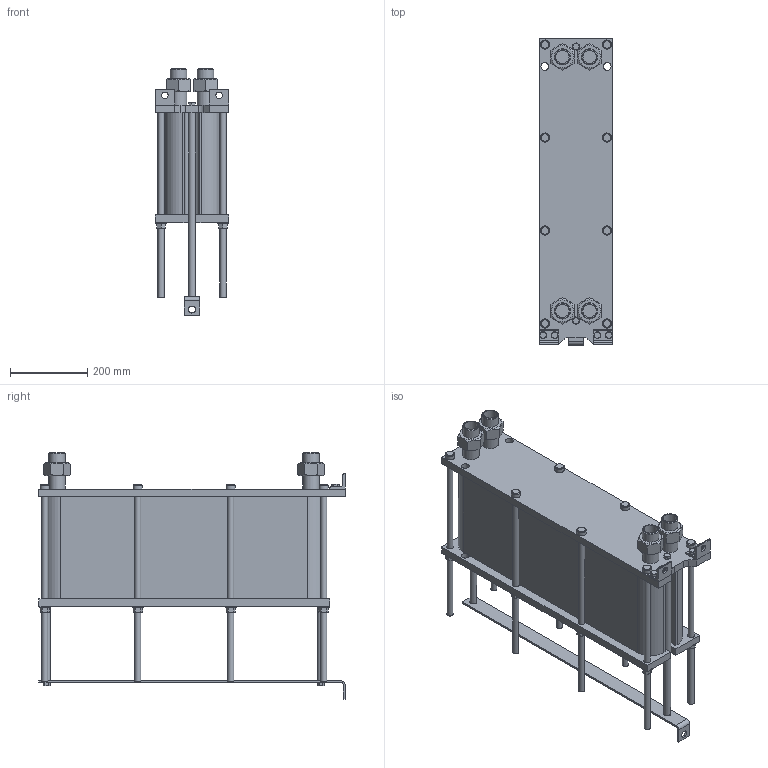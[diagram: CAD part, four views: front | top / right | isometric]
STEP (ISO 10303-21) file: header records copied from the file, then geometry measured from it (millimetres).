
FILE_DESCRIPTION(/* description */ (''),/* implementation_level */ '2;1');
FILE_NAME(/* name */ 'C:\Users\zhuro\Desktop\ENCO\TO\ЭН-008\ЭН-0,5-008-85-1.stp',/* time_stamp */ '2022-06-06T10:53:10+03:00',/* author */ ('zhuro'),/* organization */ (''),/* preprocessor_version */ 'ST-DEVELOPER v18.1',/* originating_system */ 'Autodesk Inventor 2022',/* authorisation */ '');
FILE_SCHEMA (('AUTOMOTIVE_DESIGN { 1 0 10303 214 3 1 1 }'));
Length unit declared in the file: millimetre
Products named in the file (1): ЭН-0,5-008-85-1
Bounding box: 190 x 790 x 637 mm (x, y, z)
Volume: 33767891.7 mm3; surface area: 1894642.3 mm2
Topology: 40 solids, 40 shells, 428 faces, 924 edges, 606 vertices
Faces by surface type: plane 273, cylinder 109, cone 40, torus 6
Full cylindrical faces by diameter (mm): 12 x6, 14 x2, 16 x20, 17 x8, 18 x19, 20 x5, 24 x8, 28 x8, 34.3 x8, 42.3 x8
Entity records: 15843 total; most frequent: CARTESIAN_POINT 5991, DIRECTION 1984, ORIENTED_EDGE 1848, EDGE_CURVE 924, AXIS2_PLACEMENT_3D 715, VERTEX_POINT 606, LINE 554, VECTOR 554
